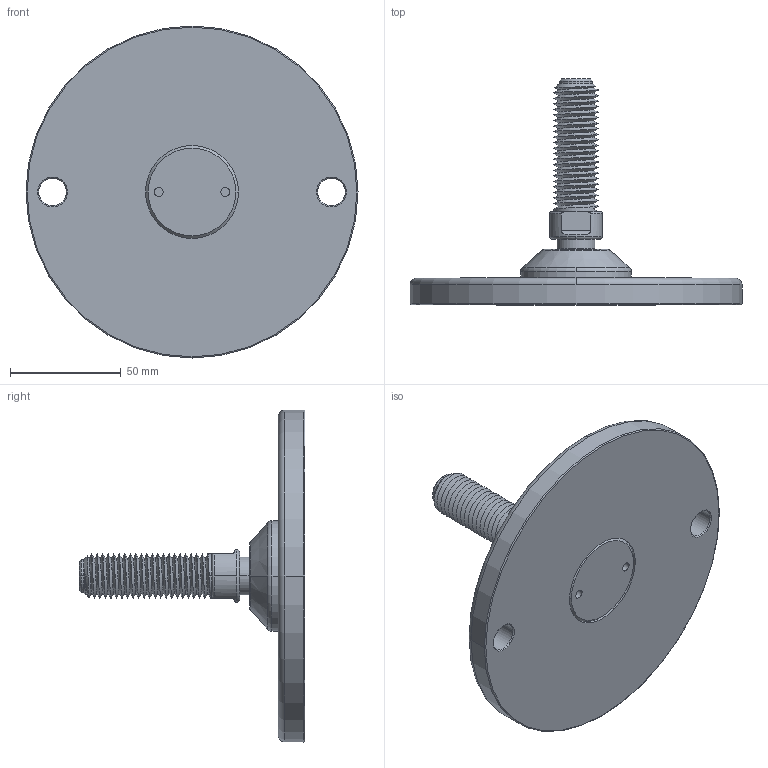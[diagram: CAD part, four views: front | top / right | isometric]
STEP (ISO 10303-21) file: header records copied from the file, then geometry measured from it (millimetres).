
FILE_DESCRIPTION((''),'1');
FILE_NAME('LALAL_M20.step','2024-06-10T15:21:05',(''),(''),'','','');
FILE_SCHEMA(('AUTOMOTIVE_DESIGN { 1 0 10303 214 1 1 1 1 }'));
Products named in the file (6): LALAL M20; LALAL part 02; LALAL O-ring 01; LALAL part 04; LALAL part 05; LALAL part 06
Assembly tree (5 placements, depth 2):
  LALAL M20
    LALAL part 02
    LALAL O-ring 01
    LALAL part 04
    LALAL part 05
    LALAL part 06
Bounding box: 150 x 102 x 150 mm (x, y, z)
Volume: 246071.6 mm3; surface area: 57984.9 mm2
Topology: 5 solids, 5 shells, 101 faces, 232 edges, 145 vertices
Faces by surface type: cylinder 36, plane 22, cone 21, torus 18, sphere 2, bspline 2
Entity records: 8475 total; most frequent: CARTESIAN_POINT 5951, DIRECTION 555, ORIENTED_EDGE 456, AXIS2_PLACEMENT_3D 244, EDGE_CURVE 228, VERTEX_POINT 145, CIRCLE 137, EDGE_LOOP 115
